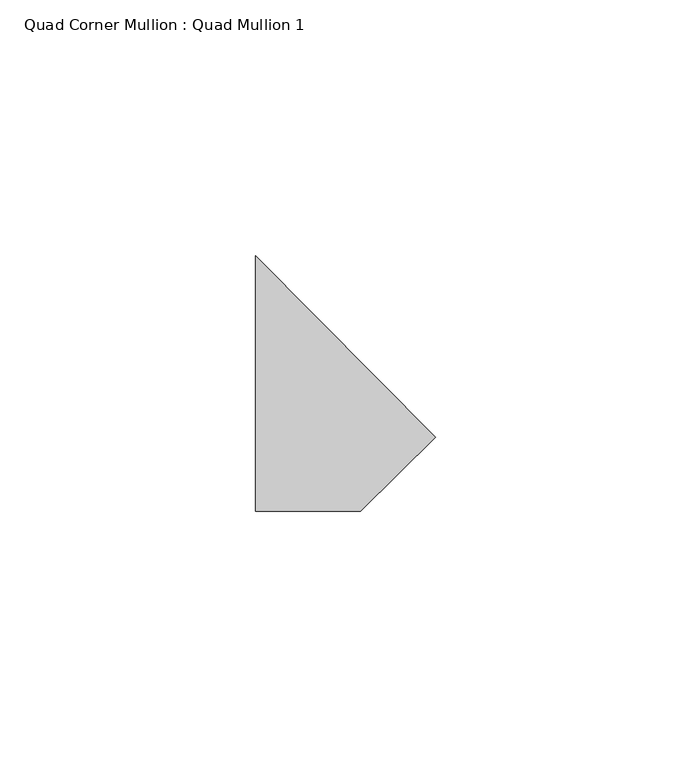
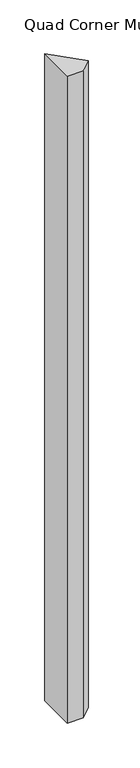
"""IFC4 building model written with IfcOpenShell, lengths in millimetres: member geometry, Quad Corner Mullion : Quad Mullion 1."""

import ifcopenshell
import ifcopenshell.guid

model = None  # the IFC model being written
_history = None  # IfcOwnerHistory: only IFC2X3 demands one
_inside = {}  # id of a spatial element -> (the spatial element, [elements in it])
_under = {}  # id of a project, library or spatial element -> (it, [spatial elements below it])
_declared = {}  # id of a project -> (the project, [libraries it declares])
_typed = {}  # id of a type object -> (the type object, [elements of that type])
_made_of = {}  # id of a material, layer set ... -> (it, [elements and type objects made of it])


def new_model(schema):
    """Start an empty IFC model of exactly this schema.

    Asked for "IFC4X3", IfcOpenShell would pick the latest addendum, in which some entities
    have other attributes; the version numbers below select the first issue.
    IFC2X3 requires an IfcOwnerHistory on every rooted entity: one is made here for all.
    """
    global model, _history
    if schema == "IFC4X3":
        model = ifcopenshell.file(schema_version=(4, 3, 0, 0))
    else:
        model = ifcopenshell.file(schema=schema)
    _inside.clear()
    _under.clear()
    _declared.clear()
    _typed.clear()
    _made_of.clear()
    _history = None
    if model.schema == "IFC2X3":
        org = make("IfcOrganization", Name="unknown")
        user = make(
            "IfcPersonAndOrganization",
            ThePerson=make("IfcPerson", FamilyName="unknown"),
            TheOrganization=org,
        )
        app = make(
            "IfcApplication",
            ApplicationDeveloper=org,
            Version="unknown",
            ApplicationFullName="unknown",
            ApplicationIdentifier="unknown",
        )
        _history = make(
            "IfcOwnerHistory",
            OwningUser=user,
            OwningApplication=app,
            ChangeAction="ADDED",
            CreationDate=0,
        )
    return model


def make(cls, **values):
    """One entity of the class cls with the attributes given. An attribute that is None is left unset."""
    return model.create_entity(
        cls, **{name: value for name, value in values.items() if value is not None}
    )


def rooted(cls, **values):
    """An entity with a GlobalId (a new one), such as an element, a storey or a relation."""
    return make(cls, GlobalId=ifcopenshell.guid.new(), OwnerHistory=_history, **values)


def si_unit(unit_type, name, prefix=None):
    """IfcSIUnit, for example si_unit("LENGTHUNIT", "METRE", prefix="MILLI")."""
    return make("IfcSIUnit", UnitType=unit_type, Prefix=prefix, Name=name)


def assignment(units):
    """IfcUnitAssignment: the units of a project."""
    return None if units is None else make("IfcUnitAssignment", Units=units)


def point(xyz):
    """IfcCartesianPoint."""
    return None if xyz is None else make("IfcCartesianPoint", Coordinates=xyz)


def direction(xyz):
    """IfcDirection."""
    return None if xyz is None else make("IfcDirection", DirectionRatios=xyz)


def frame(location, z_axis=None, x_axis=None):
    """IfcAxis2Placement3D, a coordinate frame: its origin and axes. An axis left out is left unset."""
    return make(
        "IfcAxis2Placement3D",
        Location=point(location),
        Axis=direction(z_axis),
        RefDirection=direction(x_axis),
    )


def origin():
    """The frame at (0, 0, 0) with its axes left unset."""
    return frame((0.0, 0.0, 0.0))


def place(relative_to, where):
    """IfcLocalPlacement: puts the frame where relative to a parent placement (None: the world)."""
    return make(
        "IfcLocalPlacement", PlacementRelTo=relative_to, RelativePlacement=where
    )


def context(
    kind, dimensions, precision=None, world=None, true_north=None, identifier=None
):
    """IfcGeometricRepresentationContext, for example the 3D "Model" context."""
    return make(
        "IfcGeometricRepresentationContext",
        ContextIdentifier=identifier,
        ContextType=kind,
        CoordinateSpaceDimension=dimensions,
        Precision=precision,
        WorldCoordinateSystem=world,
        TrueNorth=true_north,
    )


def project(units=None, contexts=None):
    """IfcProject with its units and contexts."""
    return rooted(
        "IfcProject",
        Name="project",
        RepresentationContexts=contexts,
        UnitsInContext=assignment(units),
    )


def spatial(cls, under=None, at=None, **own):
    """A site, building, storey or space (cls), placed at a placement, below another one or the project."""
    s = rooted(cls, ObjectPlacement=at, **own)
    if under is not None:
        _under.setdefault(under.id(), (under, []))[1].append(s)
    return s


def polyline(points):
    """IfcPolyline through the points."""
    return make("IfcPolyline", Points=[point(p) for p in points])


def outline(outer, holes=None, kind="AREA"):
    """IfcArbitraryClosedProfileDef: a profile drawn as a closed curve; with holes, ...WithVoids."""
    if holes is None:
        return make("IfcArbitraryClosedProfileDef", ProfileType=kind, OuterCurve=outer)
    return make(
        "IfcArbitraryProfileDefWithVoids",
        ProfileType=kind,
        OuterCurve=outer,
        InnerCurves=holes,
    )


def extrude(swept, where, along, depth):
    """IfcExtrudedAreaSolid: the profile swept, set in the frame where, extruded along a direction by depth."""
    return make(
        "IfcExtrudedAreaSolid",
        SweptArea=swept,
        Position=where,
        ExtrudedDirection=direction(along),
        Depth=depth,
    )


def shape(context_of_items, identifier, shape_type, items):
    """IfcShapeRepresentation: the items that make up one representation, for example the "Body"."""
    return make(
        "IfcShapeRepresentation",
        ContextOfItems=context_of_items,
        RepresentationIdentifier=identifier,
        RepresentationType=shape_type,
        Items=items,
    )


def source(mapping_origin, context_of_items, identifier, shape_type, items):
    """IfcRepresentationMap: a shape defined once, which mapped items show again and again."""
    return make(
        "IfcRepresentationMap",
        MappingOrigin=mapping_origin,
        MappedRepresentation=shape(context_of_items, identifier, shape_type, items),
    )


def transform(
    local_origin,
    x_axis=None,
    y_axis=None,
    z_axis=None,
    scale=None,
    scale2=None,
    scale3=None,
    uniform=True,
):
    """IfcCartesianTransformationOperator3D, or its non-uniform kind. x_axis, y_axis, z_axis: its Axis1, 2, 3."""
    if uniform:
        return make(
            "IfcCartesianTransformationOperator3D",
            Axis1=direction(x_axis),
            Axis2=direction(y_axis),
            LocalOrigin=point(local_origin),
            Scale=scale,
            Axis3=direction(z_axis),
        )
    return make(
        "IfcCartesianTransformationOperator3DnonUniform",
        Axis1=direction(x_axis),
        Axis2=direction(y_axis),
        LocalOrigin=point(local_origin),
        Scale=scale,
        Axis3=direction(z_axis),
        Scale2=scale2,
        Scale3=scale3,
    )


def mapped(mapping_source, mapping_target):
    """IfcMappedItem: shows the shape of a source again, moved by a transform."""
    return make(
        "IfcMappedItem", MappingSource=mapping_source, MappingTarget=mapping_target
    )


def made_of(thing, what):
    """Note that an element or type object is made of a material, layer set ...; save() writes the relation."""
    if what is not None:
        _made_of.setdefault(what.id(), (what, []))[1].append(thing)
    return thing


def element(
    cls,
    number,
    at=None,
    inside=None,
    cuts=None,
    type_object=None,
    material=None,
    context=None,
    identifier="Body",
    shape_type=None,
    held_by="IfcProductDefinitionShape",
    body=None,
    shapes=None,
    **own,
):
    """One element of the class cls, such as IfcWall. Its Tag is "e" and its number.

    at: its placement. inside: the storey or other place that contains it. cuts: it is an
    opening in that element (IfcRelVoidsElement). A single representation is given by context,
    identifier, shape_type and body (its items); several are given by shapes. held_by: the class
    of the entity that holds the representations. save() writes the other relations.
    """
    e = rooted(cls, Tag="e%d" % number, ObjectPlacement=at, **own)
    if body is not None:
        shapes = [shape(context, identifier, shape_type, body)]
    if shapes is not None:
        e.Representation = make(held_by, Representations=shapes)
    if inside is not None:
        _inside.setdefault(inside.id(), (inside, []))[1].append(e)
    if cuts is not None:
        rooted(
            "IfcRelVoidsElement", RelatingBuildingElement=cuts, RelatedOpeningElement=e
        )
    if type_object is not None:
        _typed.setdefault(type_object.id(), (type_object, []))[1].append(e)
    return made_of(e, material)


def aggregate(whole, parts):
    """IfcRelAggregates: a whole, such as a stair, and the parts it consists of."""
    return rooted("IfcRelAggregates", RelatingObject=whole, RelatedObjects=parts)


def save(model, path):
    """Write the relations noted so far, then the file.

    IfcRelAggregates (storeys below a building ...), IfcRelContainedInSpatialStructure (elements
    in a storey), IfcRelDefinesByType, IfcRelAssociatesMaterial and IfcRelDeclares: one each for
    every whole, place, type object, material and project.
    """
    for whole, parts in _under.values():
        aggregate(whole, parts)
    for where, things in _inside.values():
        rooted(
            "IfcRelContainedInSpatialStructure",
            RelatedElements=things,
            RelatingStructure=where,
        )
    for kind, things in _typed.values():
        rooted("IfcRelDefinesByType", RelatedObjects=things, RelatingType=kind)
    for what, things in _made_of.values():
        rooted("IfcRelAssociatesMaterial", RelatedObjects=things, RelatingMaterial=what)
    for by, libraries in _declared.values():
        rooted("IfcRelDeclares", RelatingContext=by, RelatedDefinitions=libraries)
    model.write(path)


def quad_corner_mullion_quad_mullion_1_d81a86f5(model_context):
    return source(origin(), model_context, "Body", "SweptSolid", [
        extrude(outline(polyline([(24.9061874, -10.5144095), (10.2893623, -25.0), (-10.2893623, -25.0), (-10.2893623, 25.0), (24.9061874, -10.5144095)])), frame((0.0, 0.0, -880.0), z_axis=(0.0, 0.0, 1.0), x_axis=(1.0, 0.0, 0.0)), (0.0, 0.0, 1.0), 880.0),
    ])


if __name__ == "__main__":
    model = new_model("IFC4")
    model_context = context("Model", 3, world=origin())
    ifc_project = project(units=[si_unit("LENGTHUNIT", "METRE", prefix="MILLI")], contexts=[model_context])
    site = spatial("IfcSite", under=ifc_project)
    building = spatial("IfcBuilding", under=site)
    placement = place(None, origin())
    quad_corner_mullion_quad_mullion_1_shape = quad_corner_mullion_quad_mullion_1_d81a86f5(model_context)
    element("IfcMember", 1, ObjectType="Quad Corner Mullion : Quad Mullion 1", at=placement, inside=building, context=model_context, shape_type="MappedRepresentation", body=[
        mapped(quad_corner_mullion_quad_mullion_1_shape, transform((0.0, 0.0, 0.0), x_axis=(1.0, 0.0, 0.0), y_axis=(0.0, 1.0, 0.0), z_axis=(0.0, 0.0, 1.0))),
    ])
    save(model, "model.ifc")
